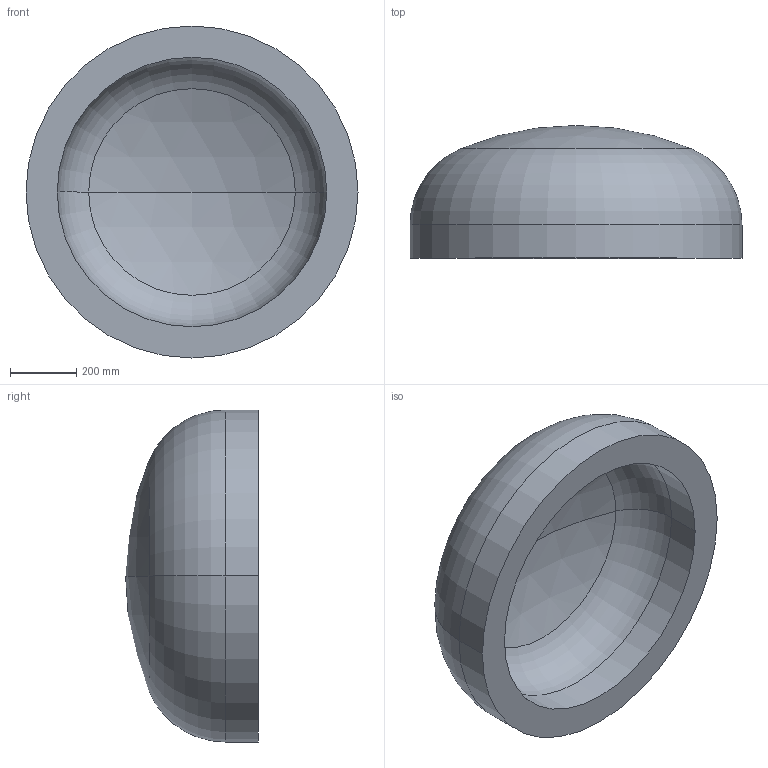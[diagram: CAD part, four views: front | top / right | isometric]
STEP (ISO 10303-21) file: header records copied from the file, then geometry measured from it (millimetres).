
FILE_DESCRIPTION (( 'STEP AP203' ), '1' );
FILE_NAME ('DIN 28013 Korbbogenform_-_Boden DIN 28013 - 1000 x 100 - I - s=94.step', '2016-07-01T08:56:01', ( '' ), ( '' ), 'SwSTEP 2.0', 'SolidWorks 2013', '' );
FILE_SCHEMA (( 'CONFIG_CONTROL_DESIGN' ));
Length unit declared in the file: millimetre
Products named in the file (1): DIN 28013 Korbbogenform_-_Boden DIN 28013 - 1000 x 100 - I - s=94
Bounding box: 1000 x 399.84 x 1000 mm (x, y, z)
Volume: 117858077.3 mm3; surface area: 2793674.9 mm2
Topology: 1 solids, 1 shells, 13 faces, 24 edges, 14 vertices
Faces by surface type: torus 4, cylinder 4, sphere 4, plane 1
Entity records: 407 total; most frequent: DIRECTION 72, CARTESIAN_POINT 52, ORIENTED_EDGE 48, AXIS2_PLACEMENT_3D 34, EDGE_CURVE 24, CIRCLE 20, VERTEX_POINT 14, EDGE_LOOP 14
